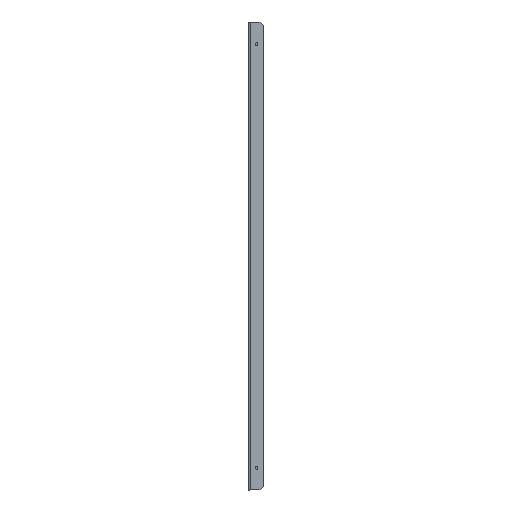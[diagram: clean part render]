
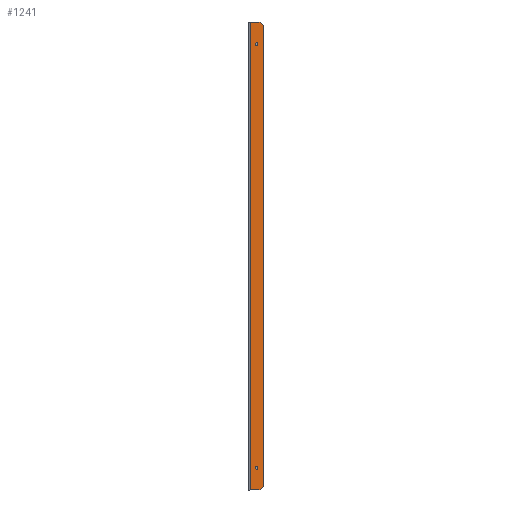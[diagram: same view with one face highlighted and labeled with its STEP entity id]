
A CAD part, left-side view. The second image highlights one B-rep face of the part: STEP entity #1241.
In plain terms, the highlighted planar face has unit normal (-1, 0, 0).
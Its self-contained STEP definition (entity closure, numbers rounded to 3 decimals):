
#306=CARTESIAN_POINT(' ',(0.,-10.4,-337.25));
#307=VERTEX_POINT(' ',#306);
#321=CARTESIAN_POINT(' ',(0.,-12.5,-337.25));
#326=DIRECTION(' ',(-1.,0.,0.));
#331=DIRECTION(' ',(0.,1.,0.));
#336=AXIS2_PLACEMENT_3D(' ',#321,#326,#331);
#341=CIRCLE('',#336,2.1);
#346=CARTESIAN_POINT(' ',(0.,-14.6,-337.25));
#347=VERTEX_POINT(' ',#346);
#351=EDGE_CURVE(' ',#307,#347,#341,.T.);
#836=CARTESIAN_POINT(' ',(0.,-12.5,-337.25));
#841=DIRECTION(' ',(-1.,0.,0.));
#846=DIRECTION(' ',(0.,-1.,0.));
#851=AXIS2_PLACEMENT_3D(' ',#836,#841,#846);
#856=CIRCLE('',#851,2.1);
#861=EDGE_CURVE(' ',#347,#307,#856,.T.);
#886=DIRECTION(' ',(-1.,0.,0.));
#891=CARTESIAN_POINT(' ',(0.,-2.1,-372.5));
#896=DIRECTION(' ',(0.,-1.,0.));
#901=AXIS2_PLACEMENT_3D(' ',#891,#886,#896);
#906=PLANE('NONE',#901);
#911=CARTESIAN_POINT(' ',(0.,-18.,-372.5));
#916=DIRECTION(' ',(0.,1.,0.));
#921=VECTOR(' ',#916,1.);
#926=LINE('',#911,#921);
#931=CARTESIAN_POINT(' ',(0.,-18.,-372.5));
#932=VERTEX_POINT(' ',#931);
#936=CARTESIAN_POINT(' ',(0.,-2.1,-372.5));
#937=VERTEX_POINT(' ',#936);
#941=EDGE_CURVE(' ',#932,#937,#926,.T.);
#946=ORIENTED_EDGE(' ',*,*,#941,.F.);
#951=CARTESIAN_POINT(' ',(0.,-18.,-372.5));
#956=DIRECTION(' ',(0.,-0.707,0.707));
#961=VECTOR(' ',#956,1.);
#966=LINE('',#951,#961);
#971=CARTESIAN_POINT(' ',(0.,-23.,-367.5));
#972=VERTEX_POINT(' ',#971);
#976=EDGE_CURVE(' ',#932,#972,#966,.T.);
#981=ORIENTED_EDGE(' ',*,*,#976,.T.);
#986=CARTESIAN_POINT(' ',(0.,-23.,367.5));
#991=DIRECTION(' ',(0.,0.,-1.));
#996=VECTOR(' ',#991,1.);
#1001=LINE('',#986,#996);
#1006=CARTESIAN_POINT(' ',(0.,-23.,367.5));
#1007=VERTEX_POINT(' ',#1006);
#1011=EDGE_CURVE(' ',#1007,#972,#1001,.T.);
#1016=ORIENTED_EDGE(' ',*,*,#1011,.F.);
#1021=CARTESIAN_POINT(' ',(0.,-23.,367.5));
#1026=DIRECTION(' ',(0.,0.707,0.707));
#1031=VECTOR(' ',#1026,1.);
#1036=LINE('',#1021,#1031);
#1041=CARTESIAN_POINT(' ',(0.,-18.,372.5));
#1042=VERTEX_POINT(' ',#1041);
#1046=EDGE_CURVE(' ',#1007,#1042,#1036,.T.);
#1051=ORIENTED_EDGE(' ',*,*,#1046,.T.);
#1056=CARTESIAN_POINT(' ',(0.,-2.1,372.5));
#1061=DIRECTION(' ',(0.,-1.,0.));
#1066=VECTOR(' ',#1061,1.);
#1071=LINE('',#1056,#1066);
#1076=CARTESIAN_POINT(' ',(0.,-2.1,372.5));
#1077=VERTEX_POINT(' ',#1076);
#1081=EDGE_CURVE(' ',#1077,#1042,#1071,.T.);
#1086=ORIENTED_EDGE(' ',*,*,#1081,.F.);
#1091=CARTESIAN_POINT(' ',(0.,-2.1,372.5));
#1096=DIRECTION(' ',(0.,0.,-1.));
#1101=VECTOR(' ',#1096,1.);
#1106=LINE('',#1091,#1101);
#1111=EDGE_CURVE(' ',#1077,#937,#1106,.T.);
#1116=ORIENTED_EDGE(' ',*,*,#1111,.T.);
#1121=EDGE_LOOP(' ',(#946,#981,#1016,#1051,#1086,#1116));
#1126=FACE_OUTER_BOUND(' ',#1121,.T.);
#1131=ORIENTED_EDGE(' ',*,*,#861,.F.);
#1136=ORIENTED_EDGE(' ',*,*,#351,.F.);
#1141=EDGE_LOOP(' ',(#1131,#1136));
#1146=FACE_BOUND(' ',#1141,.T.);
#1151=CARTESIAN_POINT(' ',(0.,-12.5,337.25));
#1156=DIRECTION(' ',(-1.,0.,0.));
#1161=DIRECTION(' ',(0.,-1.,0.));
#1166=AXIS2_PLACEMENT_3D(' ',#1151,#1156,#1161);
#1171=CIRCLE('',#1166,2.1);
#1176=CARTESIAN_POINT(' ',(0.,-14.6,337.25));
#1177=VERTEX_POINT(' ',#1176);
#1181=CARTESIAN_POINT(' ',(0.,-10.4,337.25));
#1182=VERTEX_POINT(' ',#1181);
#1186=EDGE_CURVE(' ',#1177,#1182,#1171,.T.);
#1191=ORIENTED_EDGE(' ',*,*,#1186,.F.);
#1196=CARTESIAN_POINT(' ',(0.,-12.5,337.25));
#1201=DIRECTION(' ',(-1.,0.,0.));
#1206=DIRECTION(' ',(0.,1.,0.));
#1211=AXIS2_PLACEMENT_3D(' ',#1196,#1201,#1206);
#1216=CIRCLE('',#1211,2.1);
#1221=EDGE_CURVE(' ',#1182,#1177,#1216,.T.);
#1226=ORIENTED_EDGE(' ',*,*,#1221,.F.);
#1231=EDGE_LOOP(' ',(#1191,#1226));
#1236=FACE_BOUND(' ',#1231,.T.);
#1241=ADVANCED_FACE('NONE',(#1126,#1146,#1236),#906,.T.);
